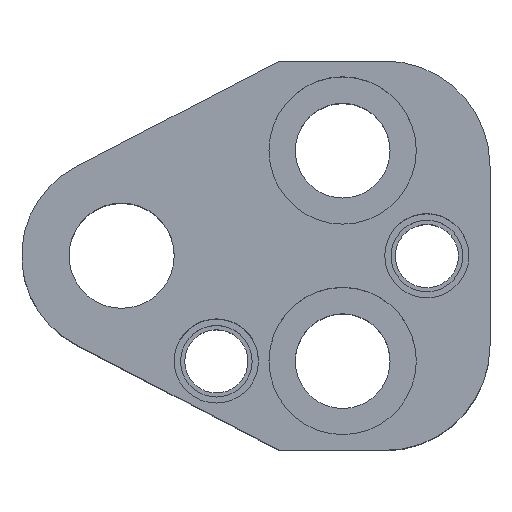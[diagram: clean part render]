
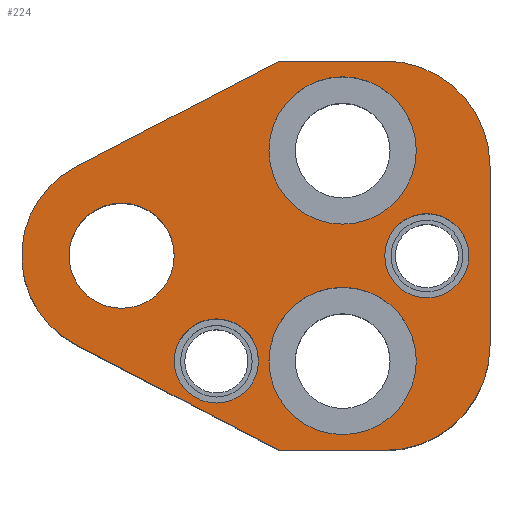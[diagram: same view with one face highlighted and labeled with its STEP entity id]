
A CAD part, top view. The second image highlights one B-rep face of the part: STEP entity #224.
In plain terms, the highlighted planar face has unit normal (0, 0, 1).
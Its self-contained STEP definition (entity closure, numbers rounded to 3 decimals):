
#99=FACE_BOUND('',#315,.T.);
#100=FACE_BOUND('',#316,.T.);
#101=FACE_BOUND('',#317,.T.);
#102=FACE_BOUND('',#318,.T.);
#103=FACE_BOUND('',#319,.T.);
#104=FACE_BOUND('',#320,.T.);
#152=CIRCLE('',#816,10.);
#154=CIRCLE('',#820,10.);
#157=CIRCLE('',#826,9.5);
#158=CIRCLE('',#828,4.);
#160=CIRCLE('',#831,4.);
#162=CIRCLE('',#834,4.);
#164=CIRCLE('',#837,4.);
#174=CIRCLE('',#852,7.);
#175=CIRCLE('',#853,7.);
#176=CIRCLE('',#854,7.);
#177=CIRCLE('',#855,7.);
#178=CIRCLE('',#856,5.);
#179=CIRCLE('',#857,5.);
#224=ADVANCED_FACE('',(#99,#100,#101,#102,#103,#104),#256,.T.);
#256=PLANE('',#858);
#315=EDGE_LOOP('',(#423,#424,#425,#426,#427,#428,#429,#430));
#316=EDGE_LOOP('',(#431,#432));
#317=EDGE_LOOP('',(#433,#434));
#318=EDGE_LOOP('',(#435,#436));
#319=EDGE_LOOP('',(#437,#438));
#320=EDGE_LOOP('',(#439,#440));
#423=ORIENTED_EDGE('',*,*,#626,.T.);
#424=ORIENTED_EDGE('',*,*,#630,.T.);
#425=ORIENTED_EDGE('',*,*,#633,.T.);
#426=ORIENTED_EDGE('',*,*,#636,.T.);
#427=ORIENTED_EDGE('',*,*,#639,.T.);
#428=ORIENTED_EDGE('',*,*,#642,.T.);
#429=ORIENTED_EDGE('',*,*,#645,.T.);
#430=ORIENTED_EDGE('',*,*,#648,.T.);
#431=ORIENTED_EDGE('',*,*,#673,.F.);
#432=ORIENTED_EDGE('',*,*,#674,.F.);
#433=ORIENTED_EDGE('',*,*,#675,.F.);
#434=ORIENTED_EDGE('',*,*,#676,.F.);
#435=ORIENTED_EDGE('',*,*,#659,.F.);
#436=ORIENTED_EDGE('',*,*,#655,.F.);
#437=ORIENTED_EDGE('',*,*,#653,.F.);
#438=ORIENTED_EDGE('',*,*,#649,.F.);
#439=ORIENTED_EDGE('',*,*,#677,.T.);
#440=ORIENTED_EDGE('',*,*,#678,.T.);
#560=VERTEX_POINT('',#1160);
#561=VERTEX_POINT('',#1162);
#564=VERTEX_POINT('',#1169);
#566=VERTEX_POINT('',#1175);
#568=VERTEX_POINT('',#1181);
#570=VERTEX_POINT('',#1187);
#572=VERTEX_POINT('',#1193);
#574=VERTEX_POINT('',#1199);
#575=VERTEX_POINT('',#1207);
#576=VERTEX_POINT('',#1208);
#579=VERTEX_POINT('',#1219);
#580=VERTEX_POINT('',#1220);
#591=VERTEX_POINT('',#1255);
#592=VERTEX_POINT('',#1256);
#593=VERTEX_POINT('',#1259);
#594=VERTEX_POINT('',#1260);
#595=VERTEX_POINT('',#1263);
#596=VERTEX_POINT('',#1264);
#626=EDGE_CURVE('',#561,#560,#726,.T.);
#630=EDGE_CURVE('',#560,#564,#730,.T.);
#633=EDGE_CURVE('',#564,#566,#152,.T.);
#636=EDGE_CURVE('',#566,#568,#734,.T.);
#639=EDGE_CURVE('',#568,#570,#154,.T.);
#642=EDGE_CURVE('',#570,#572,#738,.T.);
#645=EDGE_CURVE('',#572,#574,#741,.T.);
#648=EDGE_CURVE('',#574,#561,#157,.T.);
#649=EDGE_CURVE('',#575,#576,#158,.T.);
#653=EDGE_CURVE('',#576,#575,#160,.T.);
#655=EDGE_CURVE('',#579,#580,#162,.T.);
#659=EDGE_CURVE('',#580,#579,#164,.T.);
#673=EDGE_CURVE('',#591,#592,#174,.T.);
#674=EDGE_CURVE('',#592,#591,#175,.T.);
#675=EDGE_CURVE('',#593,#594,#176,.T.);
#676=EDGE_CURVE('',#594,#593,#177,.T.);
#677=EDGE_CURVE('',#595,#596,#178,.T.);
#678=EDGE_CURVE('',#596,#595,#179,.T.);
#726=LINE('',#1161,#770);
#730=LINE('',#1170,#774);
#734=LINE('',#1182,#778);
#738=LINE('',#1194,#782);
#741=LINE('',#1200,#785);
#770=VECTOR('',#916,1.);
#774=VECTOR('',#922,1.);
#778=VECTOR('',#934,1.);
#782=VECTOR('',#946,1.);
#785=VECTOR('',#951,1.);
#816=AXIS2_PLACEMENT_3D('',#1176,#927,#928);
#820=AXIS2_PLACEMENT_3D('',#1188,#939,#940);
#826=AXIS2_PLACEMENT_3D('',#1204,#957,#958);
#828=AXIS2_PLACEMENT_3D('',#1206,#961,#962);
#831=AXIS2_PLACEMENT_3D('',#1215,#969,#970);
#834=AXIS2_PLACEMENT_3D('',#1218,#975,#976);
#837=AXIS2_PLACEMENT_3D('',#1227,#983,#984);
#852=AXIS2_PLACEMENT_3D('',#1254,#1017,#1018);
#853=AXIS2_PLACEMENT_3D('',#1257,#1019,#1020);
#854=AXIS2_PLACEMENT_3D('',#1258,#1021,#1022);
#855=AXIS2_PLACEMENT_3D('',#1261,#1023,#1024);
#856=AXIS2_PLACEMENT_3D('',#1262,#1025,#1026);
#857=AXIS2_PLACEMENT_3D('',#1265,#1027,#1028);
#858=AXIS2_PLACEMENT_3D('',#1266,#1029,#1030);
#916=DIRECTION('',(0.887,-0.461,0.));
#922=DIRECTION('',(1.,0.,0.));
#927=DIRECTION('',(0.,0.,1.));
#928=DIRECTION('',(-0.707,0.707,0.));
#934=DIRECTION('',(0.,1.,0.));
#939=DIRECTION('',(0.,0.,1.));
#940=DIRECTION('',(-0.707,-0.707,0.));
#946=DIRECTION('',(-1.,0.,0.));
#951=DIRECTION('',(-0.887,-0.461,0.));
#957=DIRECTION('',(0.,0.,1.));
#958=DIRECTION('',(1.,0.,0.));
#961=DIRECTION('',(0.,0.,1.));
#962=DIRECTION('',(-1.,0.,0.));
#969=DIRECTION('',(0.,0.,1.));
#970=DIRECTION('',(1.,0.,0.));
#975=DIRECTION('',(0.,0.,1.));
#976=DIRECTION('',(-1.,0.,0.));
#983=DIRECTION('',(0.,0.,1.));
#984=DIRECTION('',(1.,0.,0.));
#1017=DIRECTION('',(0.,0.,1.));
#1018=DIRECTION('',(1.,0.,0.));
#1019=DIRECTION('',(0.,0.,1.));
#1020=DIRECTION('',(-1.,0.,0.));
#1021=DIRECTION('',(0.,0.,1.));
#1022=DIRECTION('',(1.,0.,0.));
#1023=DIRECTION('',(0.,0.,1.));
#1024=DIRECTION('',(-1.,0.,0.));
#1025=DIRECTION('',(0.,0.,-1.));
#1026=DIRECTION('',(0.,-1.,0.));
#1027=DIRECTION('',(0.,0.,-1.));
#1028=DIRECTION('',(0.,1.,0.));
#1029=DIRECTION('',(0.,0.,1.));
#1030=DIRECTION('',(0.887,-0.461,0.));
#1160=CARTESIAN_POINT('',(15.,-18.5,30.));
#1161=CARTESIAN_POINT('',(15.,-18.5,30.));
#1162=CARTESIAN_POINT('',(-4.38,-8.43,30.));
#1169=CARTESIAN_POINT('',(25.,-18.5,30.));
#1170=CARTESIAN_POINT('',(15.,-18.5,30.));
#1175=CARTESIAN_POINT('',(35.,-8.5,30.));
#1176=CARTESIAN_POINT('',(25.,-8.5,30.));
#1181=CARTESIAN_POINT('',(35.,8.5,30.));
#1182=CARTESIAN_POINT('',(35.,8.5,30.));
#1187=CARTESIAN_POINT('',(25.,18.5,30.));
#1188=CARTESIAN_POINT('',(25.,8.5,30.));
#1193=CARTESIAN_POINT('',(15.,18.5,30.));
#1194=CARTESIAN_POINT('',(15.,18.5,30.));
#1199=CARTESIAN_POINT('',(-4.38,8.43,30.));
#1200=CARTESIAN_POINT('',(15.,18.5,30.));
#1204=CARTESIAN_POINT('',(0.,0.,30.));
#1206=CARTESIAN_POINT('',(9.,-10.,30.));
#1207=CARTESIAN_POINT('',(9.,-14.,30.));
#1208=CARTESIAN_POINT('',(9.,-6.,30.));
#1215=CARTESIAN_POINT('',(9.,-10.,30.));
#1218=CARTESIAN_POINT('',(29.,0.,30.));
#1219=CARTESIAN_POINT('',(29.,-4.,30.));
#1220=CARTESIAN_POINT('',(29.,4.,30.));
#1227=CARTESIAN_POINT('',(29.,0.,30.));
#1254=CARTESIAN_POINT('',(21.,-10.,30.));
#1255=CARTESIAN_POINT('',(21.,-3.,30.));
#1256=CARTESIAN_POINT('',(21.,-17.,30.));
#1257=CARTESIAN_POINT('',(21.,-10.,30.));
#1258=CARTESIAN_POINT('',(21.,10.,30.));
#1259=CARTESIAN_POINT('',(21.,17.,30.));
#1260=CARTESIAN_POINT('',(21.,3.,30.));
#1261=CARTESIAN_POINT('',(21.,10.,30.));
#1262=CARTESIAN_POINT('',(0.,0.,30.));
#1263=CARTESIAN_POINT('',(-5.,0.,30.));
#1264=CARTESIAN_POINT('',(5.,0.,30.));
#1265=CARTESIAN_POINT('',(0.,0.,30.));
#1266=CARTESIAN_POINT('',(-4.38,-8.43,30.));
